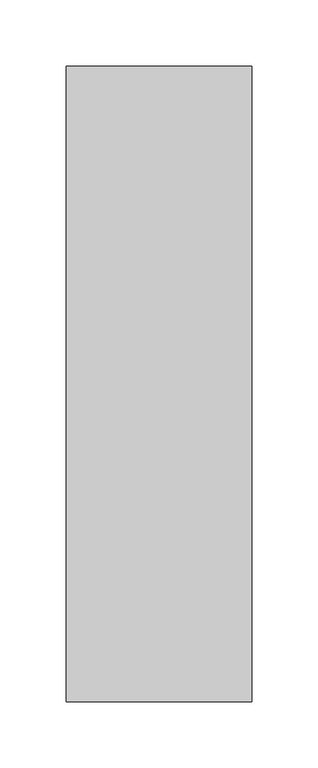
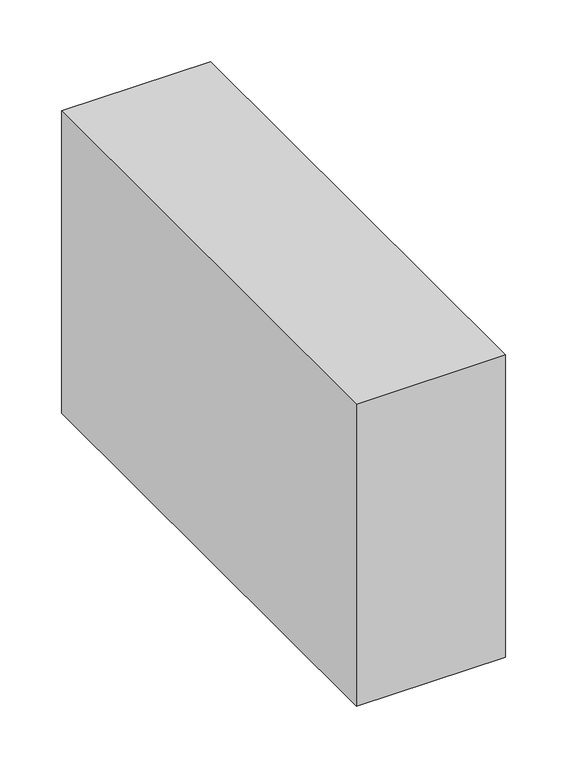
"""IFC4 building model written with IfcOpenShell, lengths in millimetres: proxy geometry."""

from ifc_helpers import new_model, si_unit, frame, origin, place, context, project, spatial, polyline, outline, extrude, source, transform, mapped, element, save


def structural_framing_986f890b(model_context):
    return source(origin(), model_context, "Body", "SweptSolid", [
        extrude(outline(polyline([(70.0, -240.0), (-70.0, -240.0), (-70.0, 240.0), (70.0, 240.0), (70.0, -240.0)])), frame((0.0, 0.0, -300.0), z_axis=(0.0, 0.0, 1.0), x_axis=(1.0, 0.0, 0.0)), (0.0, 0.0, 1.0), 300.0),
    ])


if __name__ == "__main__":
    model = new_model("IFC4")
    model_context = context("Model", 3, world=origin())
    ifc_project = project(units=[si_unit("LENGTHUNIT", "METRE", prefix="MILLI")], contexts=[model_context])
    site = spatial("IfcSite", under=ifc_project)
    building = spatial("IfcBuilding", under=site)
    placement = place(None, origin())
    structural_framing_shape = structural_framing_986f890b(model_context)
    element("IfcBuildingElementProxy", 1, Name="Structural Framing", at=placement, inside=building, context=model_context, shape_type="MappedRepresentation", body=[
        mapped(structural_framing_shape, transform((0.0, 0.0, 0.0), x_axis=(1.0, 0.0, 0.0), y_axis=(0.0, 1.0, 0.0), z_axis=(0.0, 0.0, 1.0))),
    ])
    save(model, "model.ifc")
